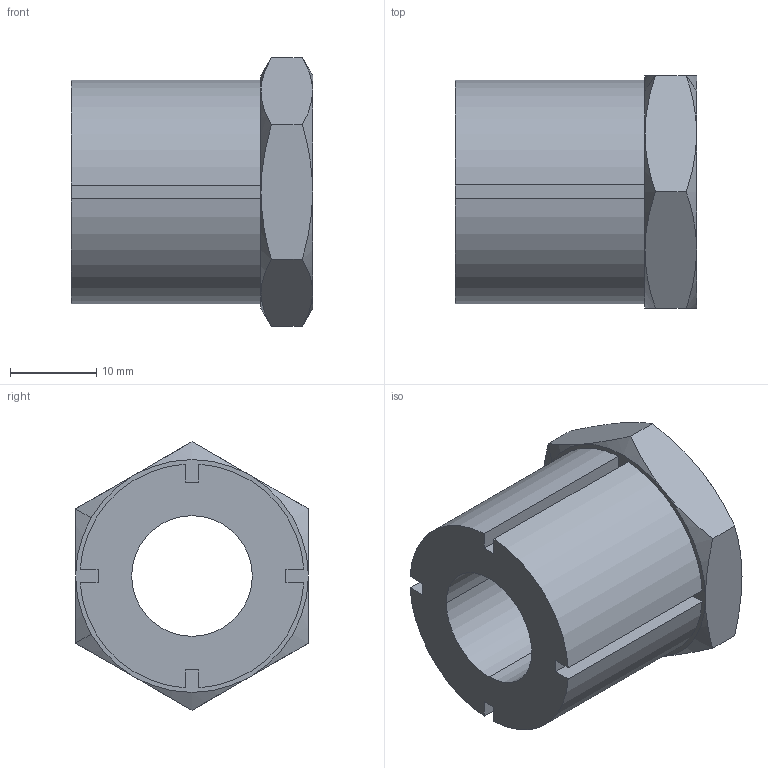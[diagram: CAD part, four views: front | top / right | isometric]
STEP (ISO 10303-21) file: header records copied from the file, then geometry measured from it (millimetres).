
FILE_DESCRIPTION((''),'2;1');
FILE_NAME('C:\WIXROYD\Positioning\3840\3840W014.stp','2003-01-09T15:38:54',('Administrator'),(''),'Autodesk Inventor (tm) 5.0','Autodesk Inventor (tm) 5.0','');
FILE_SCHEMA(('CONFIG_CONTROL_DESIGN'));
Length unit declared in the file: millimetre
Products named in the file (1): 3840W014
Bounding box: 28 x 27 x 31.18 mm (x, y, z)
Volume: 10820.9 mm3; surface area: 4850.5 mm2
Topology: 1 solids, 1 shells, 45 faces, 110 edges, 68 vertices
Faces by surface type: plane 21, cone 16, cylinder 8
Entity records: 1383 total; most frequent: CARTESIAN_POINT 272, ORIENTED_EDGE 220, DIRECTION 210, EDGE_CURVE 110, AXIS2_PLACEMENT_3D 78, VERTEX_POINT 68, VECTOR 54, LINE 54
